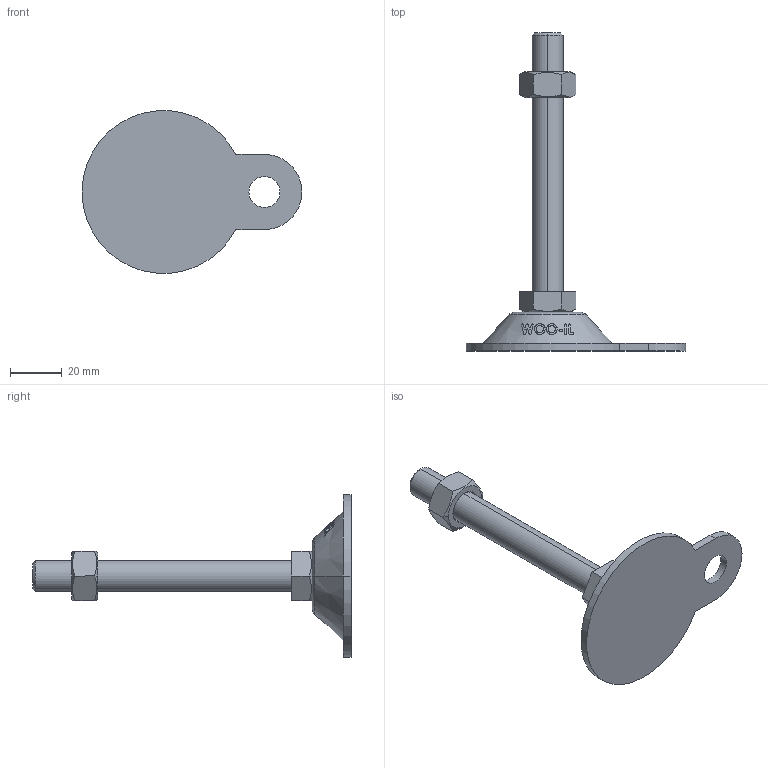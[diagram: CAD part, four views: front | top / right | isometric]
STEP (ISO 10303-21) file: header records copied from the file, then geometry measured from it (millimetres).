
FILE_DESCRIPTION (( 'STEP AP214' ), '1' );
FILE_NAME ('ABL63-M12-100.step', '2021-02-05T04:18:50', ( '' ), ( '' ), 'SwSTEP 2.0', 'SolidWorks 2019', '' );
FILE_SCHEMA (( 'AUTOMOTIVE_DESIGN' ));
Length unit declared in the file: millimetre
Products named in the file (2): ABL63-M12-100
Bounding box: 85 x 123 x 62.83 mm (x, y, z)
Volume: 41133.8 mm3; surface area: 14428.9 mm2
Topology: 2 solids, 2 shells, 128 faces, 325 edges, 212 vertices
Faces by surface type: plane 48, cylinder 38, cone 22, bspline 18, torus 2
Entity records: 5459 total; most frequent: CARTESIAN_POINT 2573, ORIENTED_EDGE 650, DIRECTION 473, EDGE_CURVE 325, VERTEX_POINT 212, AXIS2_PLACEMENT_3D 176, EDGE_LOOP 143, B_SPLINE_CURVE_WITH_KNOTS 140
